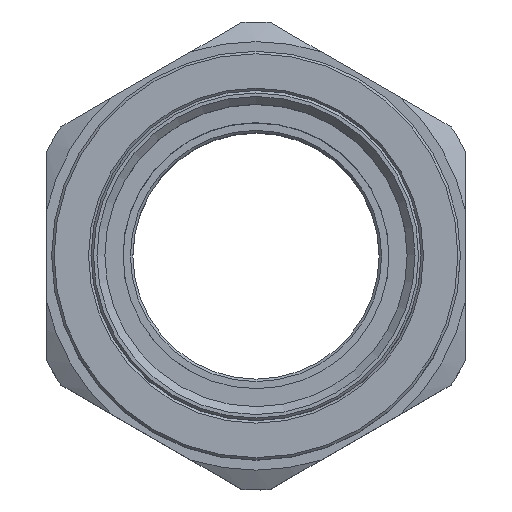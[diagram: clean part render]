
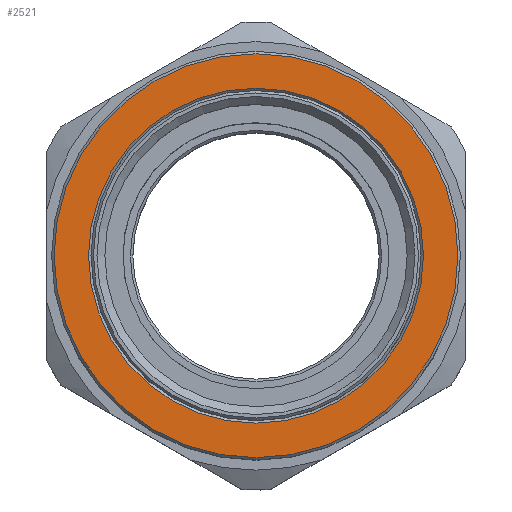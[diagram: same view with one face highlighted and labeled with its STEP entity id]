
A CAD part, top view. The second image highlights one B-rep face of the part: STEP entity #2521.
In plain terms, the highlighted planar face has unit normal (0, 0, 1).
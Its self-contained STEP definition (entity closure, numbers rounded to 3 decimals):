
#2490=CARTESIAN_POINT('',(34.0,0.,48.5));
#2491=VERTEX_POINT('',#2490);
#2492=CARTESIAN_POINT('',(0.0,0.0,48.5));
#2493=DIRECTION('',(0.0,0.0,1.0));
#2494=DIRECTION('',(-1.0,0.0,0.0));
#2495=AXIS2_PLACEMENT_3D('',#2492,#2493,#2494);
#2496=CIRCLE('',#2495,34.0);
#2497=EDGE_CURVE('',#2491,#2491,#2496,.T.);
#2502=CARTESIAN_POINT('',(0.,0.,48.5));
#2503=DIRECTION('',(0.0,0.0,1.0));
#2504=DIRECTION('',(1.0,0.0,0.0));
#2505=AXIS2_PLACEMENT_3D('',#2502,#2503,#2504);
#2506=PLANE('',#2505);
#2507=CARTESIAN_POINT('',(41.,0.,48.5));
#2508=VERTEX_POINT('',#2507);
#2509=CARTESIAN_POINT('',(0.0,0.0,48.5));
#2510=DIRECTION('',(0.0,0.0,-1.0));
#2511=DIRECTION('',(-1.0,0.0,0.0));
#2512=AXIS2_PLACEMENT_3D('',#2509,#2510,#2511);
#2513=CIRCLE('',#2512,41.);
#2514=EDGE_CURVE('',#2508,#2508,#2513,.T.);
#2515=ORIENTED_EDGE('',*,*,#2514,.F.);
#2516=EDGE_LOOP('',(#2515));
#2517=FACE_OUTER_BOUND('',#2516,.T.);
#2518=ORIENTED_EDGE('',*,*,#2497,.F.);
#2519=EDGE_LOOP('',(#2518));
#2520=FACE_BOUND('',#2519,.T.);
#2521=ADVANCED_FACE('',(#2517,#2520),#2506,.T.);
